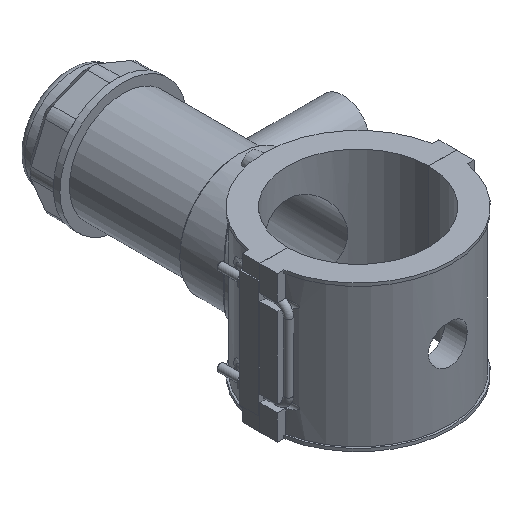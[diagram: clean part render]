
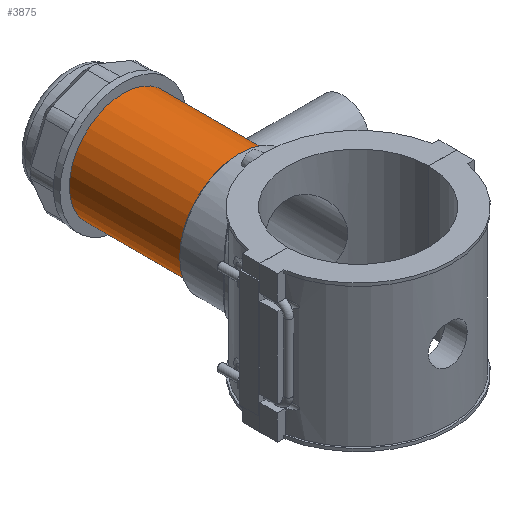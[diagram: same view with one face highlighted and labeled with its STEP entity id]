
A CAD part, isometric view. The second image highlights one B-rep face of the part: STEP entity #3875.
In plain terms, the highlighted cylindrical face has radius 43.643 mm (diameter 87.287 mm), a full revolution.
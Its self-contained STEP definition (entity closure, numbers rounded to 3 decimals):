
#57=FACE_BOUND('',#568,.T.);
#85=B_SPLINE_CURVE_WITH_KNOTS('',3,(#5821,#5822,#5823,#5824,#5825,#5826,
#5827,#5828,#5829,#5830,#5831,#5832,#5833,#5834,#5835,#5836,#5837,#5838),
 .UNSPECIFIED.,.F.,.F.,(4,2,2,2,2,2,2,2,4),(0.,0.404,0.809,
1.213,1.618,2.021,2.425,2.828,
3.231),.UNSPECIFIED.);
#86=B_SPLINE_CURVE_WITH_KNOTS('',3,(#5839,#5840,#5841,#5842,#5843,#5844,
#5845,#5846,#5847,#5848,#5849,#5850,#5851,#5852,#5853,#5854,#5855,#5856,
#5857,#5858,#5859,#5860,#5861,#5862,#5863,#5864,#5865,#5866,#5867,#5868,
#5869,#5870,#5871,#5872,#5873,#5874,#5875,#5876,#5877,#5878,#5879,#5880,
#5881,#5882,#5883,#5884,#5885,#5886,#5887,#5888),.UNSPECIFIED.,.F.,.F.,
(4,2,2,2,2,2,2,2,2,2,2,2,2,2,2,2,2,2,2,2,2,2,2,2,4),(3.231,3.635,
4.038,4.442,4.845,5.25,5.654,
6.058,6.463,6.867,7.272,7.676,
8.08,8.484,8.887,9.291,9.694,
10.098,10.501,10.905,11.308,11.713,
12.117,12.521,12.926),.UNSPECIFIED.);
#347=FACE_OUTER_BOUND('',#567,.T.);
#567=EDGE_LOOP('',(#2858,#2859,#2860,#2861,#2862,#2863));
#568=EDGE_LOOP('',(#2864,#2865));
#798=CIRCLE('',#4156,43.643);
#799=CIRCLE('',#4157,43.643);
#812=CIRCLE('',#4184,43.643);
#813=CIRCLE('',#4185,43.643);
#987=LINE('',#6138,#1326);
#1326=VECTOR('',#4773,43.643);
#1624=VERTEX_POINT('',#5818);
#1625=VERTEX_POINT('',#5820);
#1687=VERTEX_POINT('',#6079);
#1688=VERTEX_POINT('',#6080);
#1702=VERTEX_POINT('',#6134);
#1703=VERTEX_POINT('',#6135);
#2011=EDGE_CURVE('',#1625,#1624,#85,.T.);
#2012=EDGE_CURVE('',#1624,#1625,#86,.T.);
#2107=EDGE_CURVE('',#1687,#1688,#798,.T.);
#2108=EDGE_CURVE('',#1688,#1687,#799,.T.);
#2133=EDGE_CURVE('',#1702,#1703,#812,.T.);
#2134=EDGE_CURVE('',#1703,#1702,#813,.T.);
#2135=EDGE_CURVE('',#1703,#1688,#987,.T.);
#2858=ORIENTED_EDGE('',*,*,#2133,.F.);
#2859=ORIENTED_EDGE('',*,*,#2134,.F.);
#2860=ORIENTED_EDGE('',*,*,#2135,.T.);
#2861=ORIENTED_EDGE('',*,*,#2108,.T.);
#2862=ORIENTED_EDGE('',*,*,#2107,.T.);
#2863=ORIENTED_EDGE('',*,*,#2135,.F.);
#2864=ORIENTED_EDGE('',*,*,#2011,.T.);
#2865=ORIENTED_EDGE('',*,*,#2012,.T.);
#3776=CYLINDRICAL_SURFACE('',#4183,43.643);
#3875=ADVANCED_FACE('',(#347,#57),#3776,.T.);
#4156=AXIS2_PLACEMENT_3D('',#6081,#4701,#4702);
#4157=AXIS2_PLACEMENT_3D('',#6082,#4703,#4704);
#4183=AXIS2_PLACEMENT_3D('',#6133,#4767,#4768);
#4184=AXIS2_PLACEMENT_3D('',#6136,#4769,#4770);
#4185=AXIS2_PLACEMENT_3D('',#6137,#4771,#4772);
#4701=DIRECTION('center_axis',(0.,1.,0.));
#4702=DIRECTION('ref_axis',(1.,0.,0.));
#4703=DIRECTION('center_axis',(0.,1.,0.));
#4704=DIRECTION('ref_axis',(1.,0.,0.));
#4767=DIRECTION('center_axis',(0.,1.,0.));
#4768=DIRECTION('ref_axis',(0.,0.,1.));
#4769=DIRECTION('center_axis',(0.,1.,0.));
#4770=DIRECTION('ref_axis',(1.,0.,0.));
#4771=DIRECTION('center_axis',(0.,1.,0.));
#4772=DIRECTION('ref_axis',(1.,0.,0.));
#4773=DIRECTION('',(0.,-1.,0.));
#5818=CARTESIAN_POINT('',(43.643,101.024,0.));
#5820=CARTESIAN_POINT('',(38.231,122.074,-21.05));
#5821=CARTESIAN_POINT('Ctrl Pts',(38.231,122.074,-21.05));
#5822=CARTESIAN_POINT('Ctrl Pts',(38.231,120.726,-21.05));
#5823=CARTESIAN_POINT('Ctrl Pts',(38.305,119.341,-20.918));
#5824=CARTESIAN_POINT('Ctrl Pts',(38.597,116.602,-20.374));
#5825=CARTESIAN_POINT('Ctrl Pts',(38.815,115.249,-19.962));
#5826=CARTESIAN_POINT('Ctrl Pts',(39.352,112.665,-18.882));
#5827=CARTESIAN_POINT('Ctrl Pts',(39.67,111.432,-18.213));
#5828=CARTESIAN_POINT('Ctrl Pts',(40.34,109.156,-16.676));
#5829=CARTESIAN_POINT('Ctrl Pts',(40.692,108.113,-15.808));
#5830=CARTESIAN_POINT('Ctrl Pts',(41.361,106.268,-13.963));
#5831=CARTESIAN_POINT('Ctrl Pts',(41.703,105.4,-12.922));
#5832=CARTESIAN_POINT('Ctrl Pts',(42.342,103.862,-10.645));
#5833=CARTESIAN_POINT('Ctrl Pts',(42.637,103.193,-9.411));
#5834=CARTESIAN_POINT('Ctrl Pts',(43.127,102.111,-6.823));
#5835=CARTESIAN_POINT('Ctrl Pts',(43.321,101.699,-5.468));
#5836=CARTESIAN_POINT('Ctrl Pts',(43.58,101.155,-2.729));
#5837=CARTESIAN_POINT('Ctrl Pts',(43.643,101.024,-1.345));
#5838=CARTESIAN_POINT('Ctrl Pts',(43.643,101.024,0.));
#5839=CARTESIAN_POINT('Ctrl Pts',(43.643,101.024,0.));
#5840=CARTESIAN_POINT('Ctrl Pts',(43.643,101.024,1.345));
#5841=CARTESIAN_POINT('Ctrl Pts',(43.58,101.155,2.729));
#5842=CARTESIAN_POINT('Ctrl Pts',(43.321,101.699,5.468));
#5843=CARTESIAN_POINT('Ctrl Pts',(43.127,102.111,6.823));
#5844=CARTESIAN_POINT('Ctrl Pts',(42.637,103.193,9.411));
#5845=CARTESIAN_POINT('Ctrl Pts',(42.342,103.862,10.645));
#5846=CARTESIAN_POINT('Ctrl Pts',(41.703,105.4,12.922));
#5847=CARTESIAN_POINT('Ctrl Pts',(41.361,106.268,13.963));
#5848=CARTESIAN_POINT('Ctrl Pts',(40.692,108.113,15.808));
#5849=CARTESIAN_POINT('Ctrl Pts',(40.34,109.156,16.676));
#5850=CARTESIAN_POINT('Ctrl Pts',(39.67,111.432,18.213));
#5851=CARTESIAN_POINT('Ctrl Pts',(39.352,112.665,18.882));
#5852=CARTESIAN_POINT('Ctrl Pts',(38.815,115.249,19.962));
#5853=CARTESIAN_POINT('Ctrl Pts',(38.597,116.602,20.374));
#5854=CARTESIAN_POINT('Ctrl Pts',(38.305,119.341,20.918));
#5855=CARTESIAN_POINT('Ctrl Pts',(38.231,120.726,21.05));
#5856=CARTESIAN_POINT('Ctrl Pts',(38.231,123.422,21.05));
#5857=CARTESIAN_POINT('Ctrl Pts',(38.305,124.807,20.918));
#5858=CARTESIAN_POINT('Ctrl Pts',(38.597,127.546,20.374));
#5859=CARTESIAN_POINT('Ctrl Pts',(38.815,128.899,19.962));
#5860=CARTESIAN_POINT('Ctrl Pts',(39.352,131.483,18.882));
#5861=CARTESIAN_POINT('Ctrl Pts',(39.67,132.716,18.213));
#5862=CARTESIAN_POINT('Ctrl Pts',(40.34,134.992,16.676));
#5863=CARTESIAN_POINT('Ctrl Pts',(40.692,136.035,15.808));
#5864=CARTESIAN_POINT('Ctrl Pts',(41.361,137.88,13.963));
#5865=CARTESIAN_POINT('Ctrl Pts',(41.703,138.748,12.922));
#5866=CARTESIAN_POINT('Ctrl Pts',(42.342,140.286,10.645));
#5867=CARTESIAN_POINT('Ctrl Pts',(42.637,140.955,9.411));
#5868=CARTESIAN_POINT('Ctrl Pts',(43.127,142.037,6.823));
#5869=CARTESIAN_POINT('Ctrl Pts',(43.321,142.449,5.468));
#5870=CARTESIAN_POINT('Ctrl Pts',(43.58,142.993,2.729));
#5871=CARTESIAN_POINT('Ctrl Pts',(43.643,143.124,1.345));
#5872=CARTESIAN_POINT('Ctrl Pts',(43.643,143.124,-1.345));
#5873=CARTESIAN_POINT('Ctrl Pts',(43.58,142.993,-2.729));
#5874=CARTESIAN_POINT('Ctrl Pts',(43.321,142.449,-5.468));
#5875=CARTESIAN_POINT('Ctrl Pts',(43.127,142.037,-6.823));
#5876=CARTESIAN_POINT('Ctrl Pts',(42.637,140.955,-9.411));
#5877=CARTESIAN_POINT('Ctrl Pts',(42.342,140.286,-10.645));
#5878=CARTESIAN_POINT('Ctrl Pts',(41.703,138.748,-12.922));
#5879=CARTESIAN_POINT('Ctrl Pts',(41.361,137.88,-13.963));
#5880=CARTESIAN_POINT('Ctrl Pts',(40.692,136.035,-15.808));
#5881=CARTESIAN_POINT('Ctrl Pts',(40.34,134.992,-16.676));
#5882=CARTESIAN_POINT('Ctrl Pts',(39.67,132.716,-18.213));
#5883=CARTESIAN_POINT('Ctrl Pts',(39.352,131.483,-18.882));
#5884=CARTESIAN_POINT('Ctrl Pts',(38.815,128.899,-19.962));
#5885=CARTESIAN_POINT('Ctrl Pts',(38.597,127.546,-20.374));
#5886=CARTESIAN_POINT('Ctrl Pts',(38.305,124.807,-20.918));
#5887=CARTESIAN_POINT('Ctrl Pts',(38.231,123.422,-21.05));
#5888=CARTESIAN_POINT('Ctrl Pts',(38.231,122.074,-21.05));
#6079=CARTESIAN_POINT('',(0.,96.627,43.643));
#6080=CARTESIAN_POINT('',(0.,96.627,-43.643));
#6081=CARTESIAN_POINT('Origin',(0.,96.627,0.));
#6082=CARTESIAN_POINT('Origin',(0.,96.627,0.));
#6133=CARTESIAN_POINT('Origin',(0.,143.228,0.));
#6134=CARTESIAN_POINT('',(0.,189.829,43.643));
#6135=CARTESIAN_POINT('',(0.,189.829,-43.643));
#6136=CARTESIAN_POINT('Origin',(0.,189.829,0.));
#6137=CARTESIAN_POINT('Origin',(0.,189.829,0.));
#6138=CARTESIAN_POINT('',(0.,143.228,-43.643));
